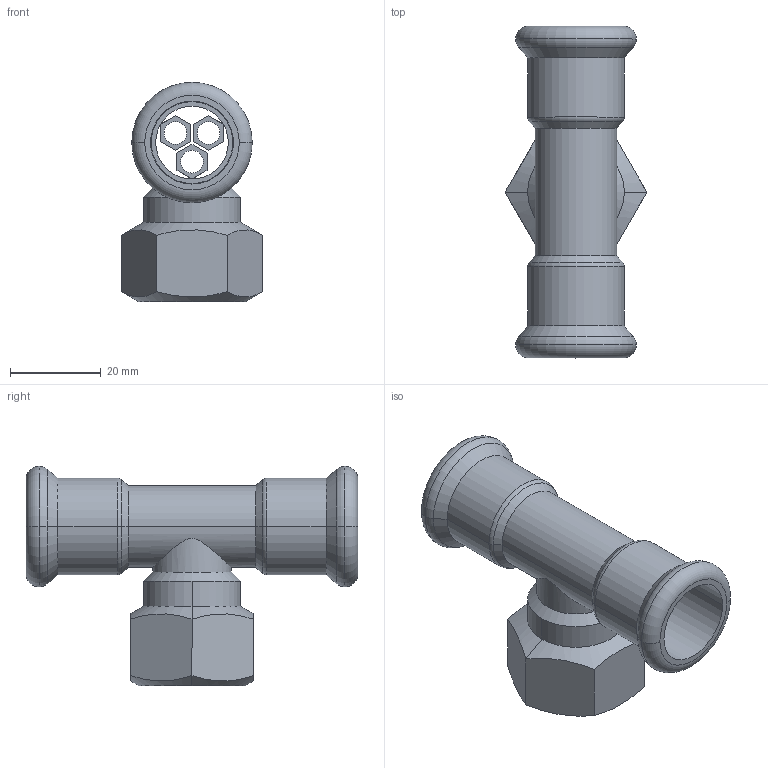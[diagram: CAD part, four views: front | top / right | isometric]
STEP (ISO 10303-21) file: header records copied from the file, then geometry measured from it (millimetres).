
FILE_DESCRIPTION(('OneSpaceDesigner STEP Export'),'2;1');
FILE_NAME('R2718 18xRp1-2x18.stp','2010-06-10T 9:57:59',(''),(''),'OneSpace Designer STEP processor for AP214 (Solid Model)','OneSpace Modeling 15.00A 14-Mar-2007 (C) CoCreate Software GmbH','');
FILE_SCHEMA(('AUTOMOTIVE_DESIGN { 1 0 10303 214 1 1 1 1 }'));
Length unit declared in the file: millimetre
Products named in the file (2): R2718_18xRp1-2x18
Assembly tree (1 placements, depth 2):
  R2718_18xRp1-2x18
    R2718_18xRp1-2x18
Bounding box: 31.18 x 73 x 48.25 mm (x, y, z)
Volume: 14247.3 mm3; surface area: 14912.7 mm2
Topology: 1 solids, 1 shells, 189 faces, 474 edges, 301 vertices
Faces by surface type: plane 93, cylinder 60, cone 24, torus 12
Entity records: 7169 total; most frequent: CARTESIAN_POINT 2955, ORIENTED_EDGE 948, DIRECTION 747, EDGE_CURVE 474, VERTEX_POINT 301, VECTOR 287, LINE 287, AXIS2_PLACEMENT_3D 230
